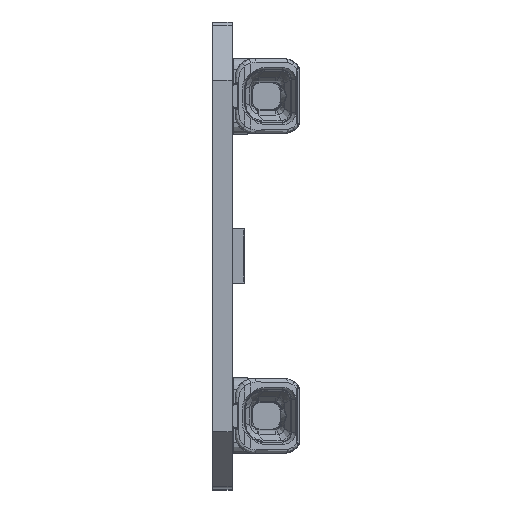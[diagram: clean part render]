
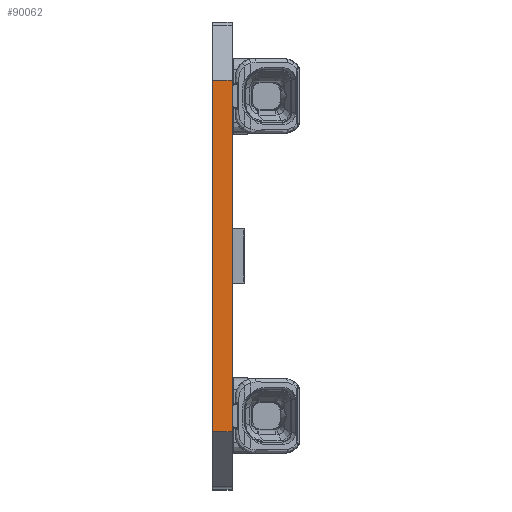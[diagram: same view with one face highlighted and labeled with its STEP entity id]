
A CAD part, left-side view. The second image highlights one B-rep face of the part: STEP entity #90062.
In plain terms, the highlighted planar face has unit normal (-1, 0, 0).
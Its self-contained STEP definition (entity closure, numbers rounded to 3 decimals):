
#4526=ORIENTED_EDGE('',*,*,#23622,.T.);
#4527=ORIENTED_EDGE('',*,*,#23685,.F.);
#4528=ORIENTED_EDGE('',*,*,#23482,.F.);
#4529=ORIENTED_EDGE('',*,*,#23686,.T.);
#23482=EDGE_CURVE('',#33118,#33119,#39288,.T.);
#23622=EDGE_CURVE('',#33259,#33258,#39376,.T.);
#23685=EDGE_CURVE('',#33119,#33258,#39429,.T.);
#23686=EDGE_CURVE('',#33118,#33259,#39430,.T.);
#33118=VERTEX_POINT('',#114906);
#33119=VERTEX_POINT('',#114908);
#33258=VERTEX_POINT('',#115187);
#33259=VERTEX_POINT('',#115189);
#39288=LINE('',#114907,#46440);
#39376=LINE('',#115188,#46528);
#39429=LINE('',#115317,#46581);
#39430=LINE('',#115319,#46582);
#46440=VECTOR('',#98636,1000.);
#46528=VECTOR('',#98830,1000.);
#46581=VECTOR('',#98981,1000.);
#46582=VECTOR('',#98984,1000.);
#53259=EDGE_LOOP('',(#4526,#4527,#4528,#4529));
#57329=FACE_BOUND('',#53259,.T.);
#61239=PLANE('',#93897);
#90062=ADVANCED_FACE('',(#57329),#61239,.F.);
#93897=AXIS2_PLACEMENT_3D('',#115318,#98982,#98983);
#98636=DIRECTION('',(0.,0.,-1.));
#98830=DIRECTION('',(0.,0.,-1.));
#98981=DIRECTION('',(0.,1.,0.));
#98982=DIRECTION('',(1.,0.,0.));
#98983=DIRECTION('',(0.,0.,-1.));
#98984=DIRECTION('',(0.,1.,0.));
#114906=CARTESIAN_POINT('',(-279.75,-1.,9.));
#114907=CARTESIAN_POINT('',(-279.75,-1.,9.));
#114908=CARTESIAN_POINT('',(-279.75,-1.,-9.));
#115187=CARTESIAN_POINT('',(-279.75,0.,-9.));
#115188=CARTESIAN_POINT('',(-279.75,0.,9.));
#115189=CARTESIAN_POINT('',(-279.75,0.,9.));
#115317=CARTESIAN_POINT('',(-279.75,-1.,-9.));
#115318=CARTESIAN_POINT('',(-279.75,-1.,9.));
#115319=CARTESIAN_POINT('',(-279.75,-1.,9.));
